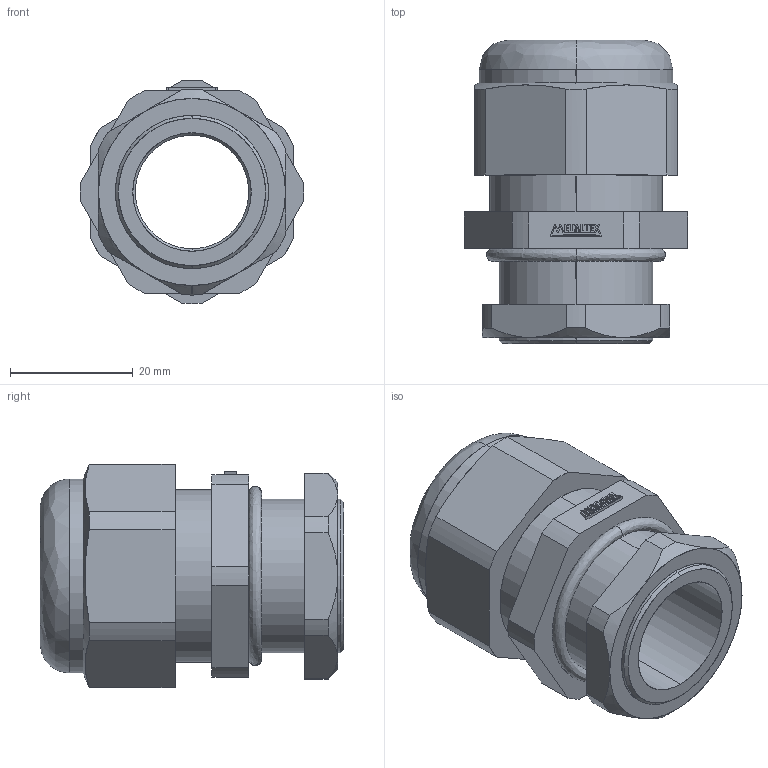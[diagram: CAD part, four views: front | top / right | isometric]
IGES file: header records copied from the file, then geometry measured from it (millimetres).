
Start section: SolidWorks IGES file using analytic representation for surfaces
Global section: file name: D:\X - Arquivos\PROEX\Empresas\P11 - METALTEX\01 - Produtos\IGES\Terceira remessa\Etapa 2\CH-M25L.IGS; native system: SolidWorks 2012; preprocessor: SolidWorks 2012; author: Usuario; date: 180207.124501; units: millimetre
Bounding box: 36.44 x 49.5 x 36.4 mm (x, y, z)
Surface area: 10408.1 mm2 (no closed solid volume)
Topology: 0 solids, 0 shells, 174 faces, 1382 edges, 1382 vertices
Faces by surface type: bspline 125, revolution 49
